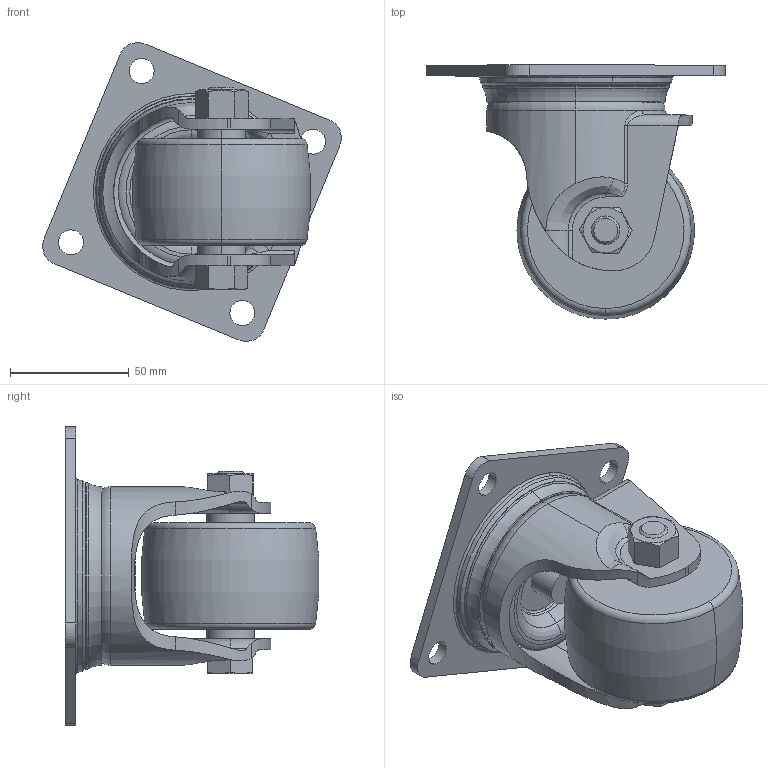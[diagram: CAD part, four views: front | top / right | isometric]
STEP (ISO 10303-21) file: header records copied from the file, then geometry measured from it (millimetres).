
FILE_DESCRIPTION (( 'STEP AP203' ), '1' );
FILE_NAME ('75--3.STEP', '2022-08-13T12:18:12', ( 'pc' ), ( 'Microsoft' ), 'SwSTEP 2.0', 'SolidWorks 2014', '' );
FILE_SCHEMA (( 'CONFIG_CONTROL_DESIGN' ));
Length unit declared in the file: millimetre
Products named in the file (9): 1; 3; 12; 5; 10; 9; 8; 75--3; 2
Assembly tree (8 placements, depth 2):
  75--3
    2
    1
    3
    12
    5
    10
    9
    8
Bounding box: 125.66 x 106.82 x 125.66 mm (x, y, z)
Volume: 332235.6 mm3; surface area: 94344.2 mm2
Topology: 8 solids, 8 shells, 257 faces, 575 edges, 350 vertices
Faces by surface type: torus 74, cylinder 73, plane 58, cone 34, bspline 18
Entity records: 10285 total; most frequent: CARTESIAN_POINT 3517, DIRECTION 1331, ORIENTED_EDGE 1150, AXIS2_PLACEMENT_3D 583, EDGE_CURVE 575, VERTEX_POINT 350, CIRCLE 333, EDGE_LOOP 297
